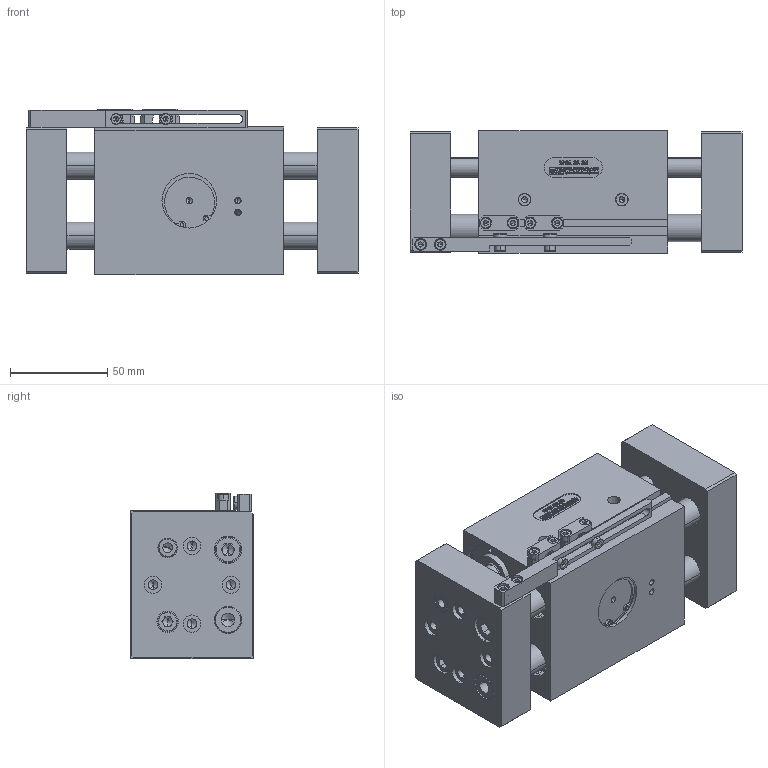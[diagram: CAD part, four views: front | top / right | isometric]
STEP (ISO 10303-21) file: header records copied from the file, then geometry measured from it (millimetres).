
FILE_DESCRIPTION (( 'STEP AP214' ), '1' );
FILE_NAME ('2PGL32-35.STEP', '2012-03-05T08:16:50', ( 'xw4600' ), ( '' ), 'SwSTEP 2.0', 'SolidWorks 2010', '' );
FILE_SCHEMA (( 'AUTOMOTIVE_DESIGN' ));
Length unit declared in the file: millimetre
Products named in the file (26): 2PGL32-A00-01_Default; 2PGL32-A00-02_Default; 2PGL32-A00-03_Default; 2PGL32-A00-04_Default; 2PGL32-A00-05_ISO - Spur gear 1M 24T 20PA 9FW ---S24A75H50L0.8N; 2PGL32-A00-06_Default; 2PGL32-A00-07_Default; 2PGL32-A00-08_Default; 2PGL32-A00-09_Default; 2PGL32-A00-11_Default; 2PGL32-A00-12_Default; 2PGL32-A00-13_Default; Bearing(605ZZ)_KS B 2023 S60 - 605-S-C; socket head cap screw_ISO 4762 M3 x 6 --- 6N; socket head cap screw_ISO 4762 M3 x 10 --- 10N; socket head cap screw_ISO 4762 M3 x 12 --- 12N; hex thin nut_Hexagon Thin Nut ISO - 4035 - M3 - N; mark1_Default; S-ring(H28)_KS 1336 I - 28; socket head cap screw_ISO 4762 M6 x 16 --- 16N; socket head cap screw_ISO 4762 M8 x 20 --- 20N; Q-ring(4111A)_Default; Q-ring(4214)_Default; Dust wiper(FQ0004DO)_Default; S-ring(H14)_KS 1336 I - 14; 2PGL32-35
Assembly tree (54 placements, depth 2):
  2PGL32-35
    2PGL32-A00-12_Default  x2
    2PGL32-A00-07_Default  x4
    socket head cap screw_ISO 4762 M3 x 12 --- 12N  x4
    Dust wiper(FQ0004DO)_Default  x4
    2PGL32-A00-04_Default  x2
    Bearing(605ZZ)_KS B 2023 S60 - 605-S-C
    socket head cap screw_ISO 4762 M6 x 16 --- 16N  x2
    socket head cap screw_ISO 4762 M3 x 10 --- 10N  x2
    Q-ring(4214)_Default  x2
    2PGL32-A00-13_Default  x2
    2PGL32-A00-03_Default  x2
    S-ring(H28)_KS 1336 I - 28
    hex thin nut_Hexagon Thin Nut ISO - 4035 - M3 - N  x4
    Q-ring(4111A)_Default  x4
    mark1_Default  x2
    2PGL32-A00-06_Default  x4
    2PGL32-A00-02_Default  x2
    S-ring(H14)_KS 1336 I - 14
    2PGL32-A00-01_Default
    2PGL32-A00-11_Default
    2PGL32-A00-09_Default
    socket head cap screw_ISO 4762 M3 x 6 --- 6N  x2
    socket head cap screw_ISO 4762 M8 x 20 --- 20N  x2
    2PGL32-A00-08_Default
    2PGL32-A00-05_ISO - Spur gear 1M 24T 20PA 9FW ---S24A75H50L0.8N
Bounding box: 170.5 x 63 x 85 mm (x, y, z)
Volume: 557893.6 mm3; surface area: 194731.6 mm2
Topology: 54 solids, 60 shells, 3742 faces, 9104 edges, 5740 vertices
Faces by surface type: plane 1745, cylinder 677, bspline 590, torus 412, cone 318
Entity records: 84131 total; most frequent: CARTESIAN_POINT 28367, ORIENTED_EDGE 9474, DIRECTION 8717, EDGE_CURVE 4737, VERTEX_POINT 3051, AXIS2_PLACEMENT_3D 2989, VECTOR 2739, LINE 2739
